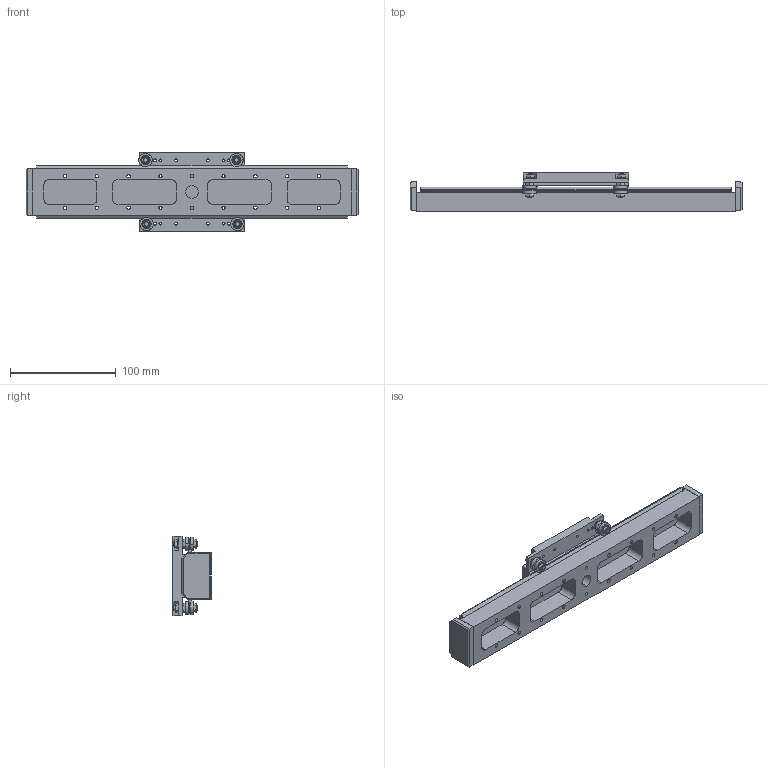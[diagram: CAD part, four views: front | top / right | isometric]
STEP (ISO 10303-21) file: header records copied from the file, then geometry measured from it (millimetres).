
FILE_DESCRIPTION (( 'STEP AP214' ), '1' );
FILE_NAME ('VSM23-P-200 - Simplified.STEP', '2024-06-21T09:19:40', ( '' ), ( '' ), 'SwSTEP 2.0', 'SolidWorks 2024', '' );
FILE_SCHEMA (( 'AUTOMOTIVE_DESIGN' ));
Length unit declared in the file: millimetre
Products named in the file (16): VSM23-P-200 - Simplified; P0301.040-A2_P0301.040-A2; M4 Washer; VSM23-P Passive Carriage_Simplified; VSM23-X-200 V-slide_Simplified; Bearing_Simplified; VSM23-P Passive Carriage Assy_Simplified; Outer_Simplified; Concentric shaft_Simplified; VSM23-P End Plate_Simplified; Eccentric Bearing Assy_Simplified; Inner_Simplified; Concentric Bearing Assy_Simplified; VSM23-P-200 Base plate_Simplified; Ball; Eccentric shaft_Simplified
Assembly tree (34 placements, depth 5):
  VSM23-P-200 - Simplified
    VSM23-P-200 Base plate_Simplified
    VSM23-X-200 V-slide_Simplified
    VSM23-P Passive Carriage Assy_Simplified
      VSM23-P Passive Carriage_Simplified
      Eccentric Bearing Assy_Simplified  x2
        Eccentric shaft_Simplified
        Bearing_Simplified
          Outer_Simplified
          Inner_Simplified
          Ball  x8
        P0301.040-A2_P0301.040-A2
      Concentric Bearing Assy_Simplified  x2
        Concentric shaft_Simplified
        Bearing_Simplified
          Outer_Simplified
          Inner_Simplified
          Ball  x8
        P0301.040-A2_P0301.040-A2
      M4 Washer  x2
      P0301.040-A2_P0301.040-A2  x4
    VSM23-P End Plate_Simplified  x2
Bounding box: 314 x 36 x 75 mm (x, y, z)
Volume: 295199.7 mm3; surface area: 110283.1 mm2
Topology: 99 solids, 99 shells, 969 faces, 2427 edges, 1566 vertices
Faces by surface type: cylinder 387, plane 254, sphere 128, cone 120, torus 80
Entity records: 13710 total; most frequent: CARTESIAN_POINT 2561, DIRECTION 2399, ORIENTED_EDGE 2070, EDGE_CURVE 1035, AXIS2_PLACEMENT_3D 970, VERTEX_POINT 676, EDGE_LOOP 589, CIRCLE 528
